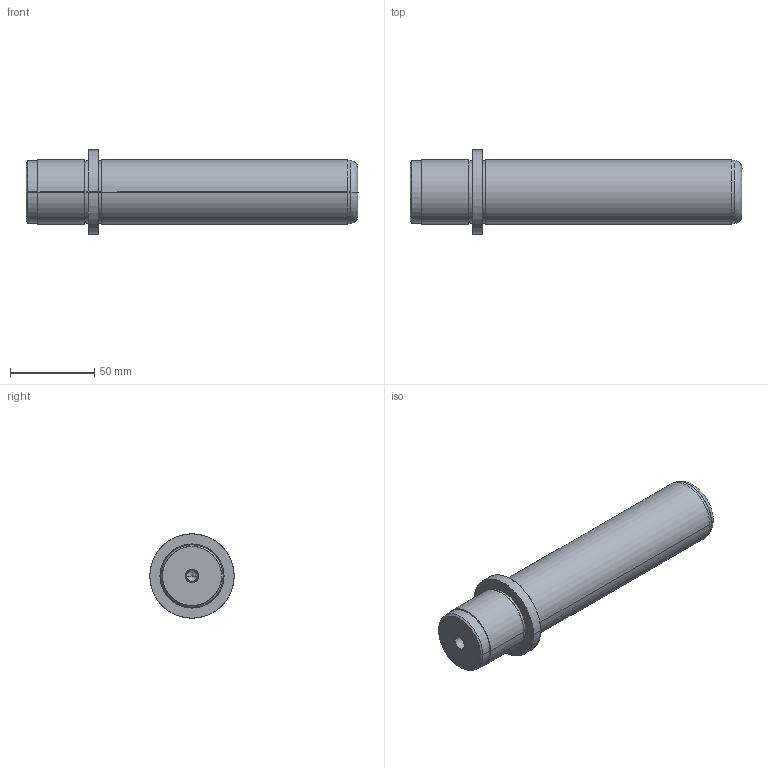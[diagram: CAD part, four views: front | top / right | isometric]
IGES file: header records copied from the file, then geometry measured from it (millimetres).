
Start section: SolidWorks IGES FILE using analytic representation for surfaces
Global section: file name: D:\zzzzz\Delta\D06\38\D06 - 38x160x37.IGS; native system: SolidWorks 2004 by SolidWorks Corporation; preprocessor: Version 5.3; author: Hkn; date: 080327.151001; units: millimetre
Bounding box: 197 x 50 x 50 mm (x, y, z)
Surface area: 28702.1 mm2 (no closed solid volume)
Topology: 0 solids, 0 shells, 39 faces, 1080 edges, 1076 vertices
Faces by surface type: revolution 28, bspline 11
